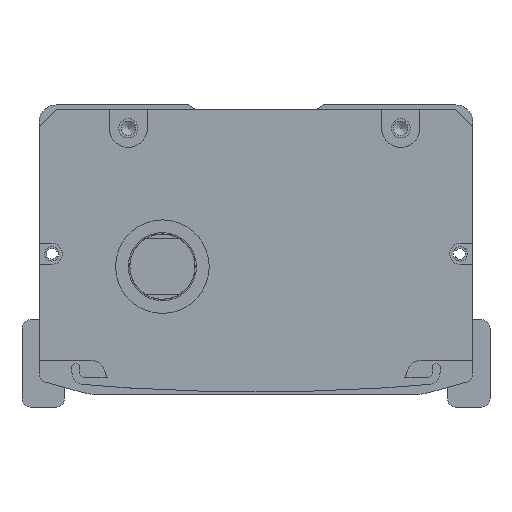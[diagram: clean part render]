
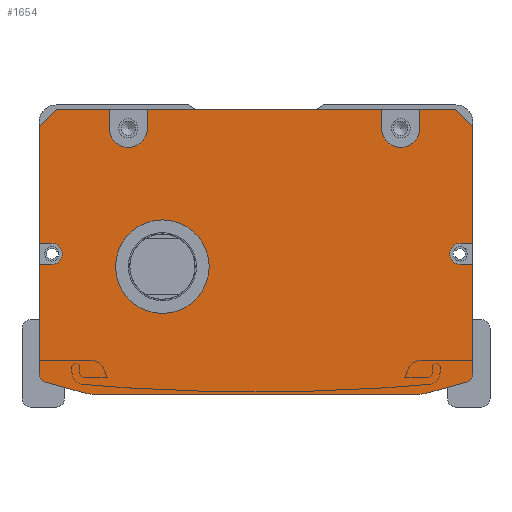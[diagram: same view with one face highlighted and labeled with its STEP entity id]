
A CAD part, front view. The second image highlights one B-rep face of the part: STEP entity #1654.
In plain terms, the highlighted planar face has unit normal (0, -1, 0).
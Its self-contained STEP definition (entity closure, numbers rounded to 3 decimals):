
#990=FACE_BOUND('',#3118,.T.);
#991=FACE_BOUND('',#3119,.T.);
#1654=ADVANCED_FACE('',(#990,#991),#2265,.F.);
#2265=PLANE('',#11995);
#3118=EDGE_LOOP('',(#5507,#5508,#5509,#5510,#5511,#5512,#5513,#5514,#5515,
#5516,#5517,#5518,#5519,#5520,#5521,#5522,#5523,#5524,#5525,#5526,#5527,
#5528,#5529,#5530,#5531,#5532,#5533,#5534));
#3119=EDGE_LOOP('',(#5535));
#4097=CIRCLE('',#11986,4.5);
#4098=CIRCLE('',#11987,4.5);
#4099=CIRCLE('',#11988,2.5);
#4100=CIRCLE('',#11989,2.);
#4101=CIRCLE('',#11990,10.);
#4102=CIRCLE('',#11991,10.);
#4103=CIRCLE('',#11992,2.);
#4104=CIRCLE('',#11993,2.5);
#4105=CIRCLE('',#11994,11.);
#5507=ORIENTED_EDGE('',*,*,#8872,.T.);
#5508=ORIENTED_EDGE('',*,*,#9290,.T.);
#5509=ORIENTED_EDGE('',*,*,#9291,.T.);
#5510=ORIENTED_EDGE('',*,*,#9292,.F.);
#5511=ORIENTED_EDGE('',*,*,#9293,.T.);
#5512=ORIENTED_EDGE('',*,*,#9294,.F.);
#5513=ORIENTED_EDGE('',*,*,#9295,.T.);
#5514=ORIENTED_EDGE('',*,*,#9296,.F.);
#5515=ORIENTED_EDGE('',*,*,#9297,.T.);
#5516=ORIENTED_EDGE('',*,*,#9298,.F.);
#5517=ORIENTED_EDGE('',*,*,#9299,.T.);
#5518=ORIENTED_EDGE('',*,*,#9300,.T.);
#5519=ORIENTED_EDGE('',*,*,#8904,.T.);
#5520=ORIENTED_EDGE('',*,*,#9301,.T.);
#5521=ORIENTED_EDGE('',*,*,#9302,.T.);
#5522=ORIENTED_EDGE('',*,*,#9303,.T.);
#5523=ORIENTED_EDGE('',*,*,#8900,.T.);
#5524=ORIENTED_EDGE('',*,*,#9304,.T.);
#5525=ORIENTED_EDGE('',*,*,#9305,.T.);
#5526=ORIENTED_EDGE('',*,*,#9306,.T.);
#5527=ORIENTED_EDGE('',*,*,#9307,.T.);
#5528=ORIENTED_EDGE('',*,*,#9308,.T.);
#5529=ORIENTED_EDGE('',*,*,#9309,.T.);
#5530=ORIENTED_EDGE('',*,*,#9310,.T.);
#5531=ORIENTED_EDGE('',*,*,#8876,.T.);
#5532=ORIENTED_EDGE('',*,*,#9311,.T.);
#5533=ORIENTED_EDGE('',*,*,#9312,.T.);
#5534=ORIENTED_EDGE('',*,*,#9313,.T.);
#5535=ORIENTED_EDGE('',*,*,#9314,.T.);
#7734=VERTEX_POINT('',#16532);
#7735=VERTEX_POINT('',#16534);
#7738=VERTEX_POINT('',#16540);
#7739=VERTEX_POINT('',#16542);
#7760=VERTEX_POINT('',#16587);
#7761=VERTEX_POINT('',#16589);
#7764=VERTEX_POINT('',#16595);
#7765=VERTEX_POINT('',#16597);
#8030=VERTEX_POINT('',#17394);
#8031=VERTEX_POINT('',#17396);
#8032=VERTEX_POINT('',#17398);
#8033=VERTEX_POINT('',#17400);
#8034=VERTEX_POINT('',#17402);
#8035=VERTEX_POINT('',#17404);
#8036=VERTEX_POINT('',#17406);
#8037=VERTEX_POINT('',#17408);
#8038=VERTEX_POINT('',#17410);
#8039=VERTEX_POINT('',#17412);
#8040=VERTEX_POINT('',#17415);
#8041=VERTEX_POINT('',#17417);
#8042=VERTEX_POINT('',#17420);
#8043=VERTEX_POINT('',#17422);
#8044=VERTEX_POINT('',#17424);
#8045=VERTEX_POINT('',#17426);
#8046=VERTEX_POINT('',#17428);
#8047=VERTEX_POINT('',#17430);
#8048=VERTEX_POINT('',#17433);
#8049=VERTEX_POINT('',#17435);
#8050=VERTEX_POINT('',#17438);
#8872=EDGE_CURVE('',#7735,#7734,#10323,.T.);
#8876=EDGE_CURVE('',#7739,#7738,#10327,.T.);
#8900=EDGE_CURVE('',#7761,#7760,#10351,.T.);
#8904=EDGE_CURVE('',#7765,#7764,#10355,.T.);
#9290=EDGE_CURVE('',#7734,#8030,#10588,.T.);
#9291=EDGE_CURVE('',#8030,#8031,#10589,.T.);
#9292=EDGE_CURVE('',#8032,#8031,#10590,.T.);
#9293=EDGE_CURVE('',#8032,#8033,#4097,.T.);
#9294=EDGE_CURVE('',#8034,#8033,#10591,.T.);
#9295=EDGE_CURVE('',#8034,#8035,#10592,.T.);
#9296=EDGE_CURVE('',#8036,#8035,#10593,.T.);
#9297=EDGE_CURVE('',#8036,#8037,#4098,.T.);
#9298=EDGE_CURVE('',#8038,#8037,#10594,.T.);
#9299=EDGE_CURVE('',#8038,#8039,#10595,.T.);
#9300=EDGE_CURVE('',#8039,#7765,#10596,.T.);
#9301=EDGE_CURVE('',#7764,#8040,#10597,.T.);
#9302=EDGE_CURVE('',#8040,#8041,#4099,.T.);
#9303=EDGE_CURVE('',#8041,#7761,#10598,.T.);
#9304=EDGE_CURVE('',#7760,#8042,#4100,.T.);
#9305=EDGE_CURVE('',#8042,#8043,#10599,.T.);
#9306=EDGE_CURVE('',#8043,#8044,#4101,.T.);
#9307=EDGE_CURVE('',#8044,#8045,#10600,.T.);
#9308=EDGE_CURVE('',#8045,#8046,#4102,.T.);
#9309=EDGE_CURVE('',#8046,#8047,#10601,.T.);
#9310=EDGE_CURVE('',#8047,#7739,#4103,.T.);
#9311=EDGE_CURVE('',#7738,#8048,#10602,.T.);
#9312=EDGE_CURVE('',#8048,#8049,#4104,.T.);
#9313=EDGE_CURVE('',#8049,#7735,#10603,.T.);
#9314=EDGE_CURVE('',#8050,#8050,#4105,.T.);
#10323=LINE('',#16533,#10976);
#10327=LINE('',#16541,#10980);
#10351=LINE('',#16588,#11004);
#10355=LINE('',#16596,#11008);
#10588=LINE('',#17393,#11241);
#10589=LINE('',#17395,#11242);
#10590=LINE('',#17397,#11243);
#10591=LINE('',#17401,#11244);
#10592=LINE('',#17403,#11245);
#10593=LINE('',#17405,#11246);
#10594=LINE('',#17409,#11247);
#10595=LINE('',#17411,#11248);
#10596=LINE('',#17413,#11249);
#10597=LINE('',#17414,#11250);
#10598=LINE('',#17418,#11251);
#10599=LINE('',#17421,#11252);
#10600=LINE('',#17425,#11253);
#10601=LINE('',#17429,#11254);
#10602=LINE('',#17432,#11255);
#10603=LINE('',#17436,#11256);
#10976=VECTOR('',#13198,1.);
#10980=VECTOR('',#13202,1.);
#11004=VECTOR('',#13228,1.);
#11008=VECTOR('',#13232,1.);
#11241=VECTOR('',#14063,1.);
#11242=VECTOR('',#14064,1.);
#11243=VECTOR('',#14065,1.);
#11244=VECTOR('',#14068,1.);
#11245=VECTOR('',#14069,1.);
#11246=VECTOR('',#14070,1.);
#11247=VECTOR('',#14073,1.);
#11248=VECTOR('',#14074,1.);
#11249=VECTOR('',#14075,1.);
#11250=VECTOR('',#14076,1.);
#11251=VECTOR('',#14079,1.);
#11252=VECTOR('',#14082,1.);
#11253=VECTOR('',#14085,1.);
#11254=VECTOR('',#14088,1.);
#11255=VECTOR('',#14091,1.);
#11256=VECTOR('',#14094,1.);
#11986=AXIS2_PLACEMENT_3D('',#17399,#14066,#14067);
#11987=AXIS2_PLACEMENT_3D('',#17407,#14071,#14072);
#11988=AXIS2_PLACEMENT_3D('',#17416,#14077,#14078);
#11989=AXIS2_PLACEMENT_3D('',#17419,#14080,#14081);
#11990=AXIS2_PLACEMENT_3D('',#17423,#14083,#14084);
#11991=AXIS2_PLACEMENT_3D('',#17427,#14086,#14087);
#11992=AXIS2_PLACEMENT_3D('',#17431,#14089,#14090);
#11993=AXIS2_PLACEMENT_3D('',#17434,#14092,#14093);
#11994=AXIS2_PLACEMENT_3D('',#17437,#14095,#14096);
#11995=AXIS2_PLACEMENT_3D('',#17439,#14097,#14098);
#13198=DIRECTION('',(0.,0.,1.));
#13202=DIRECTION('',(0.,0.,1.));
#13228=DIRECTION('',(0.,0.,-1.));
#13232=DIRECTION('',(0.,0.,-1.));
#14063=DIRECTION('',(-0.707,0.,0.707));
#14064=DIRECTION('',(-1.,0.,0.));
#14065=DIRECTION('',(0.,0.,1.));
#14066=DIRECTION('',(0.,1.,0.));
#14067=DIRECTION('',(0.,0.,1.));
#14068=DIRECTION('',(0.,0.,-1.));
#14069=DIRECTION('',(-1.,0.,0.));
#14070=DIRECTION('',(0.,0.,1.));
#14071=DIRECTION('',(0.,1.,0.));
#14072=DIRECTION('',(0.,0.,1.));
#14073=DIRECTION('',(0.,0.,-1.));
#14074=DIRECTION('',(-1.,0.,0.));
#14075=DIRECTION('',(-0.707,0.,-0.707));
#14076=DIRECTION('',(1.,0.,0.));
#14077=DIRECTION('',(0.,1.,0.));
#14078=DIRECTION('',(0.,0.,1.));
#14079=DIRECTION('',(-1.,0.,0.));
#14080=DIRECTION('',(0.,-1.,0.));
#14081=DIRECTION('',(0.,0.,1.));
#14082=DIRECTION('',(0.963,0.,-0.269));
#14083=DIRECTION('',(0.,-1.,0.));
#14084=DIRECTION('',(0.,0.,1.));
#14085=DIRECTION('',(1.,0.,0.));
#14086=DIRECTION('',(0.,-1.,0.));
#14087=DIRECTION('',(0.,0.,-1.));
#14088=DIRECTION('',(0.963,0.,0.269));
#14089=DIRECTION('',(0.,-1.,0.));
#14090=DIRECTION('',(0.,0.,-1.));
#14091=DIRECTION('',(-1.,0.,0.));
#14092=DIRECTION('',(0.,1.,0.));
#14093=DIRECTION('',(0.,0.,1.));
#14094=DIRECTION('',(1.,0.,0.));
#14095=DIRECTION('',(0.,1.,0.));
#14096=DIRECTION('',(0.,0.,1.));
#14097=DIRECTION('',(0.,1.,0.));
#14098=DIRECTION('',(1.,0.,0.));
#16532=CARTESIAN_POINT('',(47.808,-657.5,-5.));
#16533=CARTESIAN_POINT('',(47.808,-657.5,-1.));
#16534=CARTESIAN_POINT('',(47.808,-657.5,-32.5));
#16540=CARTESIAN_POINT('',(47.808,-657.5,-37.5));
#16541=CARTESIAN_POINT('',(47.808,-657.5,-1.));
#16542=CARTESIAN_POINT('',(47.808,-657.5,-63.212));
#16587=CARTESIAN_POINT('',(-54.192,-657.5,-63.212));
#16588=CARTESIAN_POINT('',(-54.192,-657.5,-62.));
#16589=CARTESIAN_POINT('',(-54.192,-657.5,-37.5));
#16595=CARTESIAN_POINT('',(-54.192,-657.5,-32.5));
#16596=CARTESIAN_POINT('',(-54.192,-657.5,-62.));
#16597=CARTESIAN_POINT('',(-54.192,-657.5,-5.));
#17393=CARTESIAN_POINT('',(43.808,-657.5,-1.));
#17394=CARTESIAN_POINT('',(43.808,-657.5,-1.));
#17395=CARTESIAN_POINT('',(-3.192,-657.5,-1.));
#17396=CARTESIAN_POINT('',(35.308,-657.5,-1.));
#17397=CARTESIAN_POINT('',(35.308,-657.5,-1.));
#17398=CARTESIAN_POINT('',(35.308,-657.5,-5.5));
#17399=CARTESIAN_POINT('',(30.808,-657.5,-5.5));
#17400=CARTESIAN_POINT('',(26.308,-657.5,-5.5));
#17401=CARTESIAN_POINT('',(26.308,-657.5,-1.));
#17402=CARTESIAN_POINT('',(26.308,-657.5,-1.));
#17403=CARTESIAN_POINT('',(-54.192,-657.5,-1.));
#17404=CARTESIAN_POINT('',(-28.692,-657.5,-1.));
#17405=CARTESIAN_POINT('',(-28.692,-657.5,-3.5));
#17406=CARTESIAN_POINT('',(-28.692,-657.5,-5.5));
#17407=CARTESIAN_POINT('',(-33.192,-657.5,-5.5));
#17408=CARTESIAN_POINT('',(-37.692,-657.5,-5.5));
#17409=CARTESIAN_POINT('',(-37.692,-657.5,-1.));
#17410=CARTESIAN_POINT('',(-37.692,-657.5,-1.));
#17411=CARTESIAN_POINT('',(-54.192,-657.5,-1.));
#17412=CARTESIAN_POINT('',(-50.192,-657.5,-1.));
#17413=CARTESIAN_POINT('',(-54.192,-657.5,-5.));
#17414=CARTESIAN_POINT('',(-3.192,-657.5,-32.5));
#17415=CARTESIAN_POINT('',(-51.192,-657.5,-32.5));
#17416=CARTESIAN_POINT('',(-51.192,-657.5,-35.));
#17417=CARTESIAN_POINT('',(-51.192,-657.5,-37.5));
#17418=CARTESIAN_POINT('',(-3.192,-657.5,-37.5));
#17419=CARTESIAN_POINT('',(-52.192,-657.5,-63.212));
#17420=CARTESIAN_POINT('',(-52.731,-657.5,-65.138));
#17421=CARTESIAN_POINT('',(-55.807,-657.5,-64.279));
#17422=CARTESIAN_POINT('',(-43.809,-657.5,-67.631));
#17423=CARTESIAN_POINT('',(-41.118,-657.5,-58.));
#17424=CARTESIAN_POINT('',(-41.118,-657.5,-68.));
#17425=CARTESIAN_POINT('',(-54.692,-657.5,-68.));
#17426=CARTESIAN_POINT('',(34.733,-657.5,-68.));
#17427=CARTESIAN_POINT('',(34.733,-657.5,-58.));
#17428=CARTESIAN_POINT('',(37.424,-657.5,-67.631));
#17429=CARTESIAN_POINT('',(49.422,-657.5,-64.279));
#17430=CARTESIAN_POINT('',(46.346,-657.5,-65.138));
#17431=CARTESIAN_POINT('',(45.808,-657.5,-63.212));
#17432=CARTESIAN_POINT('',(-3.192,-657.5,-37.5));
#17433=CARTESIAN_POINT('',(44.808,-657.5,-37.5));
#17434=CARTESIAN_POINT('',(44.808,-657.5,-35.));
#17435=CARTESIAN_POINT('',(44.808,-657.5,-32.5));
#17436=CARTESIAN_POINT('',(-3.192,-657.5,-32.5));
#17437=CARTESIAN_POINT('',(-25.192,-657.5,-38.));
#17438=CARTESIAN_POINT('',(-25.192,-657.5,-27.));
#17439=CARTESIAN_POINT('',(-3.192,-657.5,-1.));
